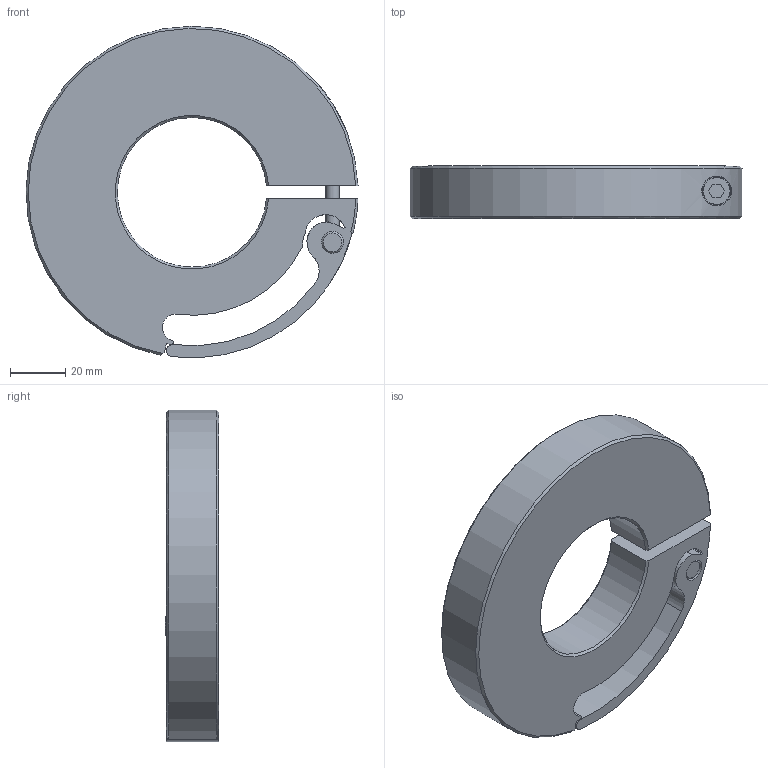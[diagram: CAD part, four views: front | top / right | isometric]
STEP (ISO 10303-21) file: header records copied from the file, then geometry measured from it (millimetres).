
FILE_DESCRIPTION((''),'2;1');
FILE_NAME('MQCL-54-A','2016-09-09T',('SYSTEM'),(''),'PRO/ENGINEER BY PARAMETRIC TECHNOLOGY CORPORATION, 2015110','PRO/ENGINEER BY PARAMETRIC TECHNOLOGY CORPORATION, 2015110','');
FILE_SCHEMA(('AUTOMOTIVE_DESIGN { 1 0 10303 214 1 1 1 1 }'));
Length unit declared in the file: metre
Products named in the file (1): MQCL-54-A
Bounding box: 119.95 x 19.43 x 119.78 mm (x, y, z)
Volume: 150975.5 mm3; surface area: 33127.5 mm2
Topology: 1 solids, 1 shells, 81 faces, 236 edges, 160 vertices
Faces by surface type: cylinder 40, plane 25, cone 16
Entity records: 3455 total; most frequent: CARTESIAN_POINT 738, DIRECTION 479, ORIENTED_EDGE 472, EDGE_CURVE 236, AXIS2_PLACEMENT_3D 192, VERTEX_POINT 160, CIRCLE 111, VECTOR 95
